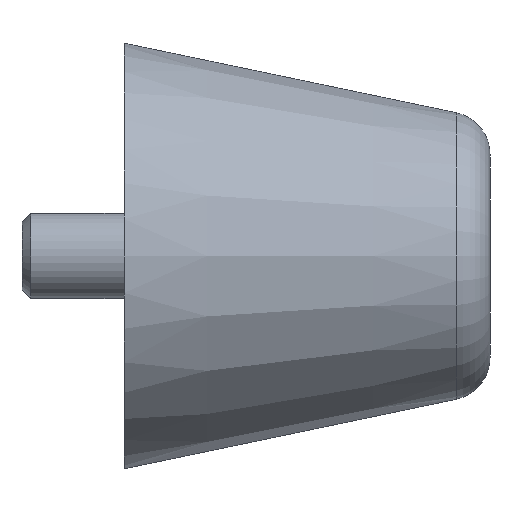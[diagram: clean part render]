
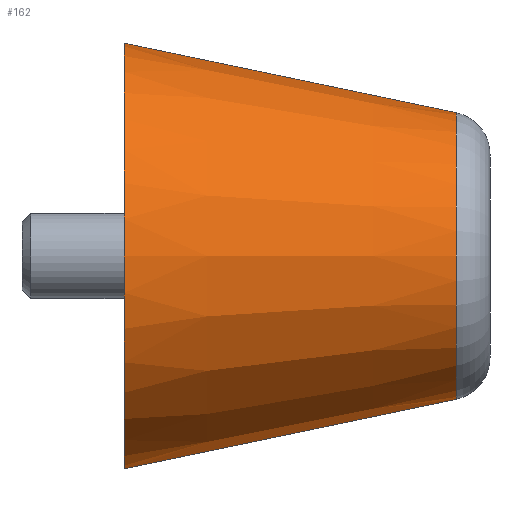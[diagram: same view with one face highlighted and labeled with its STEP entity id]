
A CAD part, left-side view. The second image highlights one B-rep face of the part: STEP entity #162.
In plain terms, the highlighted conical face has half-angle 11.821 degrees and reference radius 16 mm.
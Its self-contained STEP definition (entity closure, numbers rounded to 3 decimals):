
#38 = CIRCLE ( 'NONE', #75, 16.832 ) ;
#49 = FACE_OUTER_BOUND ( 'NONE', #480, .T. ) ;
#58 = DIRECTION ( 'NONE',  ( 0., 0., -1. ) ) ;
#73 = EDGE_CURVE ( 'NONE', #184, #472, #38, .T. ) ;
#75 = AXIS2_PLACEMENT_3D ( 'NONE', #408, #190, #365 ) ;
#121 = AXIS2_PLACEMENT_3D ( 'NONE', #481, #262, #140 ) ;
#140 = DIRECTION ( 'NONE',  ( 0., 0., 1. ) ) ;
#141 = ORIENTED_EDGE ( 'NONE', *, *, #212, .T. ) ;
#144 = AXIS2_PLACEMENT_3D ( 'NONE', #224, #410, #58 ) ;
#151 = CARTESIAN_POINT ( 'NONE',  ( 0., 3.976, 16.832 ) ) ;
#162 = ADVANCED_FACE ( 'NONE', ( #49 ), #239, .T. ) ;
#184 = VERTEX_POINT ( 'NONE', #477 ) ;
#190 = DIRECTION ( 'NONE',  ( 0., 1., 0. ) ) ;
#194 = CIRCLE ( 'NONE', #144, 25. ) ;
#198 = CARTESIAN_POINT ( 'NONE',  ( 0., 0., 16. ) ) ;
#212 = EDGE_CURVE ( 'NONE', #359, #221, #194, .T. ) ;
#221 = VERTEX_POINT ( 'NONE', #440 ) ;
#224 = CARTESIAN_POINT ( 'NONE',  ( 0., 43., 0. ) ) ;
#232 = ORIENTED_EDGE ( 'NONE', *, *, #73, .T. ) ;
#239 = CONICAL_SURFACE ( 'NONE', #121, 16., 0.206 ) ;
#262 = DIRECTION ( 'NONE',  ( 0., 1., 0. ) ) ;
#287 = CARTESIAN_POINT ( 'NONE',  ( 0., 43., 25. ) ) ;
#331 = LINE ( 'NONE', #198, #426 ) ;
#335 = EDGE_CURVE ( 'NONE', #472, #359, #331, .T. ) ;
#344 = DIRECTION ( 'NONE',  ( 0., 0.979, -0.205 ) ) ;
#348 = LINE ( 'NONE', #475, #490 ) ;
#359 = VERTEX_POINT ( 'NONE', #287 ) ;
#365 = DIRECTION ( 'NONE',  ( 0., 0., -1. ) ) ;
#408 = CARTESIAN_POINT ( 'NONE',  ( 0., 3.976, 0. ) ) ;
#409 = ORIENTED_EDGE ( 'NONE', *, *, #335, .T. ) ;
#410 = DIRECTION ( 'NONE',  ( 0., -1., 0. ) ) ;
#419 = EDGE_CURVE ( 'NONE', #184, #221, #348, .T. ) ;
#426 = VECTOR ( 'NONE', #457, 1000. ) ;
#440 = CARTESIAN_POINT ( 'NONE',  ( 0., 43., -25. ) ) ;
#447 = ORIENTED_EDGE ( 'NONE', *, *, #419, .F. ) ;
#457 = DIRECTION ( 'NONE',  ( 0., 0.979, 0.205 ) ) ;
#472 = VERTEX_POINT ( 'NONE', #151 ) ;
#475 = CARTESIAN_POINT ( 'NONE',  ( 0., 0., -16. ) ) ;
#477 = CARTESIAN_POINT ( 'NONE',  ( 0., 3.976, -16.832 ) ) ;
#480 = EDGE_LOOP ( 'NONE', ( #447, #232, #409, #141 ) ) ;
#481 = CARTESIAN_POINT ( 'NONE',  ( 0., 0., 0. ) ) ;
#490 = VECTOR ( 'NONE', #344, 1000. ) ;
